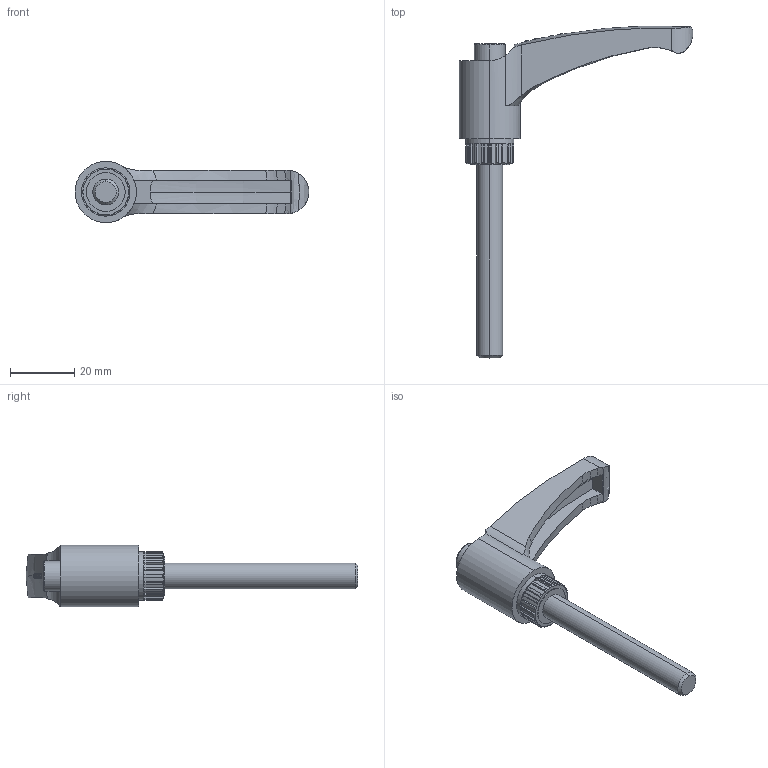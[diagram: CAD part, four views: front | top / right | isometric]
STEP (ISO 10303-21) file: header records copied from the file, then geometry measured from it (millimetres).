
FILE_DESCRIPTION (( 'STEP AP214' ), '1' );
FILE_NAME ('2.9014 Kiinnitysvipu M8 L60 ulkokierteellä.STEP', '2025-09-10T08:12:02', ( '' ), ( '' ), 'SwSTEP 2.0', 'SolidWorks 2025', '' );
FILE_SCHEMA (( 'AUTOMOTIVE_DESIGN' ));
Length unit declared in the file: millimetre
Products named in the file (1): 2.9014 Kiinnitysvipu M8 L60 ulkokierteellä
Bounding box: 72.5 x 102.97 x 19 mm (x, y, z)
Volume: 16897 mm3; surface area: 7408.9 mm2
Topology: 1 solids, 1 shells, 171 faces, 481 edges, 307 vertices
Faces by surface type: cylinder 67, plane 54, cone 24, bspline 14, torus 12
Entity records: 6167 total; most frequent: CARTESIAN_POINT 1828, ORIENTED_EDGE 942, DIRECTION 859, EDGE_CURVE 471, AXIS2_PLACEMENT_3D 330, VERTEX_POINT 307, LINE 199, VECTOR 199
